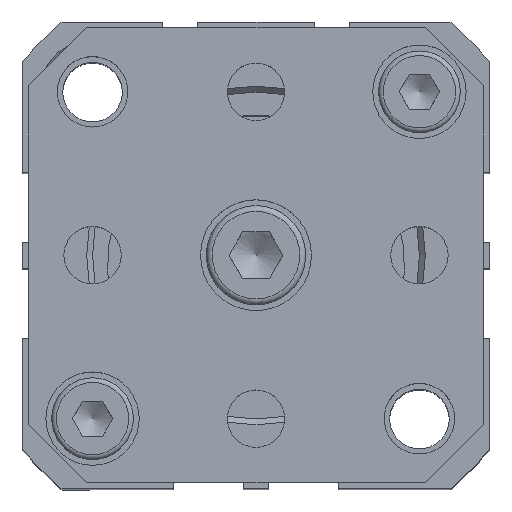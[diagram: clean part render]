
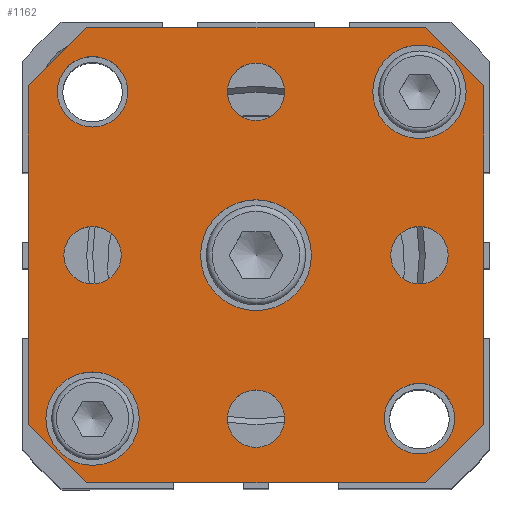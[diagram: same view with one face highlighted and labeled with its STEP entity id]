
A CAD part, top view. The second image highlights one B-rep face of the part: STEP entity #1162.
In plain terms, the highlighted planar face has unit normal (0, 0, 1).
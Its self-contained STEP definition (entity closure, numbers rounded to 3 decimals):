
#464=CARTESIAN_POINT('',(-12.524,-11.716,65.2));
#465=VERTEX_POINT('',#464);
#466=CARTESIAN_POINT('',(-16.524,-11.716,65.2));
#467=DIRECTION('',(0.0,0.0,-1.0));
#468=DIRECTION('',(1.0,0.0,0.0));
#469=AXIS2_PLACEMENT_3D('',#466,#467,#468);
#470=CIRCLE('',#469,4.0);
#471=EDGE_CURVE('',#465,#465,#470,.T.);
#566=CARTESIAN_POINT('',(15.476,16.284,65.2));
#567=VERTEX_POINT('',#566);
#568=CARTESIAN_POINT('',(11.476,16.284,65.2));
#569=DIRECTION('',(0.0,0.0,-1.0));
#570=DIRECTION('',(1.0,0.0,0.0));
#571=AXIS2_PLACEMENT_3D('',#568,#569,#570);
#572=CIRCLE('',#571,4.0);
#573=EDGE_CURVE('',#567,#567,#572,.T.);
#651=CARTESIAN_POINT('',(13.934,2.284,65.2));
#652=VERTEX_POINT('',#651);
#653=CARTESIAN_POINT('',(11.476,2.284,65.2));
#654=DIRECTION('',(0.0,0.0,-1.0));
#655=DIRECTION('',(1.0,0.0,0.0));
#656=AXIS2_PLACEMENT_3D('',#653,#654,#655);
#657=CIRCLE('',#656,2.459);
#658=EDGE_CURVE('',#652,#652,#657,.T.);
#692=CARTESIAN_POINT('',(-0.066,-11.716,65.2));
#693=VERTEX_POINT('',#692);
#694=CARTESIAN_POINT('',(-2.524,-11.716,65.2));
#695=DIRECTION('',(0.0,0.0,-1.0));
#696=DIRECTION('',(1.0,0.0,0.0));
#697=AXIS2_PLACEMENT_3D('',#694,#695,#696);
#698=CIRCLE('',#697,2.459);
#699=EDGE_CURVE('',#693,#693,#698,.T.);
#733=CARTESIAN_POINT('',(-14.066,2.284,65.2));
#734=VERTEX_POINT('',#733);
#735=CARTESIAN_POINT('',(-16.524,2.284,65.2));
#736=DIRECTION('',(0.0,0.0,-1.0));
#737=DIRECTION('',(1.0,0.0,0.0));
#738=AXIS2_PLACEMENT_3D('',#735,#736,#737);
#739=CIRCLE('',#738,2.459);
#740=EDGE_CURVE('',#734,#734,#739,.T.);
#774=CARTESIAN_POINT('',(-0.066,16.284,65.2));
#775=VERTEX_POINT('',#774);
#776=CARTESIAN_POINT('',(-2.524,16.284,65.2));
#777=DIRECTION('',(0.0,0.0,-1.0));
#778=DIRECTION('',(1.0,0.0,0.0));
#779=AXIS2_PLACEMENT_3D('',#776,#777,#778);
#780=CIRCLE('',#779,2.459);
#781=EDGE_CURVE('',#775,#775,#780,.T.);
#840=CARTESIAN_POINT('',(2.226,2.284,65.2));
#841=VERTEX_POINT('',#840);
#842=CARTESIAN_POINT('',(-2.524,2.284,65.2));
#843=DIRECTION('',(0.0,0.0,-1.0));
#844=DIRECTION('',(1.0,0.0,0.0));
#845=AXIS2_PLACEMENT_3D('',#842,#843,#844);
#846=CIRCLE('',#845,4.75);
#847=EDGE_CURVE('',#841,#841,#846,.T.);
#893=CARTESIAN_POINT('',(14.495,-11.716,65.2));
#894=VERTEX_POINT('',#893);
#895=CARTESIAN_POINT('',(11.476,-11.716,65.2));
#896=DIRECTION('',(0.0,0.0,-1.0));
#897=DIRECTION('',(-1.0,0.0,0.0));
#898=AXIS2_PLACEMENT_3D('',#895,#896,#897);
#899=CIRCLE('',#898,3.019);
#900=EDGE_CURVE('',#894,#894,#899,.T.);
#913=CARTESIAN_POINT('',(-13.505,16.284,65.2));
#914=VERTEX_POINT('',#913);
#915=CARTESIAN_POINT('',(-16.524,16.284,65.2));
#916=DIRECTION('',(0.0,0.0,-1.0));
#917=DIRECTION('',(-1.0,0.0,0.0));
#918=AXIS2_PLACEMENT_3D('',#915,#916,#917);
#919=CIRCLE('',#918,3.019);
#920=EDGE_CURVE('',#914,#914,#919,.T.);
#933=CARTESIAN_POINT('',(-17.024,21.784,65.2));
#934=VERTEX_POINT('',#933);
#935=CARTESIAN_POINT('',(11.976,21.784,65.2));
#936=VERTEX_POINT('',#935);
#937=CARTESIAN_POINT('',(-17.024,21.784,65.2));
#938=DIRECTION('',(1.0,0.0,0.0));
#939=VECTOR('',#938,29.);
#940=LINE('',#937,#939);
#941=EDGE_CURVE('',#934,#936,#940,.T.);
#964=CARTESIAN_POINT('',(16.976,16.784,65.2));
#965=VERTEX_POINT('',#964);
#966=CARTESIAN_POINT('',(11.976,21.784,65.2));
#967=DIRECTION('',(0.707,-0.707,0.0));
#968=VECTOR('',#967,7.071);
#969=LINE('',#966,#968);
#970=EDGE_CURVE('',#936,#965,#969,.T.);
#988=CARTESIAN_POINT('',(16.976,-12.216,65.2));
#989=VERTEX_POINT('',#988);
#990=CARTESIAN_POINT('',(16.976,16.784,65.2));
#991=DIRECTION('',(0.0,-1.0,0.0));
#992=VECTOR('',#991,29.);
#993=LINE('',#990,#992);
#994=EDGE_CURVE('',#965,#989,#993,.T.);
#1012=CARTESIAN_POINT('',(11.976,-17.216,65.2));
#1013=VERTEX_POINT('',#1012);
#1014=CARTESIAN_POINT('',(16.976,-12.216,65.2));
#1015=DIRECTION('',(-0.707,-0.707,0.0));
#1016=VECTOR('',#1015,7.071);
#1017=LINE('',#1014,#1016);
#1018=EDGE_CURVE('',#989,#1013,#1017,.T.);
#1036=CARTESIAN_POINT('',(-17.024,-17.216,65.2));
#1037=VERTEX_POINT('',#1036);
#1038=CARTESIAN_POINT('',(11.976,-17.216,65.2));
#1039=DIRECTION('',(-1.0,0.0,0.0));
#1040=VECTOR('',#1039,29.);
#1041=LINE('',#1038,#1040);
#1042=EDGE_CURVE('',#1013,#1037,#1041,.T.);
#1060=CARTESIAN_POINT('',(-22.024,-12.216,65.2));
#1061=VERTEX_POINT('',#1060);
#1062=CARTESIAN_POINT('',(-17.024,-17.216,65.2));
#1063=DIRECTION('',(-0.707,0.707,0.0));
#1064=VECTOR('',#1063,7.071);
#1065=LINE('',#1062,#1064);
#1066=EDGE_CURVE('',#1037,#1061,#1065,.T.);
#1084=CARTESIAN_POINT('',(-22.024,16.784,65.2));
#1085=VERTEX_POINT('',#1084);
#1086=CARTESIAN_POINT('',(-22.024,-12.216,65.2));
#1087=DIRECTION('',(0.0,1.0,0.0));
#1088=VECTOR('',#1087,29.);
#1089=LINE('',#1086,#1088);
#1090=EDGE_CURVE('',#1061,#1085,#1089,.T.);
#1108=CARTESIAN_POINT('',(-22.024,16.784,65.2));
#1109=DIRECTION('',(0.707,0.707,0.0));
#1110=VECTOR('',#1109,7.071);
#1111=LINE('',#1108,#1110);
#1112=EDGE_CURVE('',#1085,#934,#1111,.T.);
#1120=CARTESIAN_POINT('',(-2.524,2.284,65.2));
#1121=DIRECTION('',(0.0,0.0,1.0));
#1122=DIRECTION('',(1.0,0.0,0.0));
#1123=AXIS2_PLACEMENT_3D('',#1120,#1121,#1122);
#1124=PLANE('',#1123);
#1125=ORIENTED_EDGE('',*,*,#941,.F.);
#1126=ORIENTED_EDGE('',*,*,#1112,.F.);
#1127=ORIENTED_EDGE('',*,*,#1090,.F.);
#1128=ORIENTED_EDGE('',*,*,#1066,.F.);
#1129=ORIENTED_EDGE('',*,*,#1042,.F.);
#1130=ORIENTED_EDGE('',*,*,#1018,.F.);
#1131=ORIENTED_EDGE('',*,*,#994,.F.);
#1132=ORIENTED_EDGE('',*,*,#970,.F.);
#1133=EDGE_LOOP('',(#1125,#1126,#1127,#1128,#1129,#1130,#1131,#1132));
#1134=FACE_OUTER_BOUND('',#1133,.T.);
#1135=ORIENTED_EDGE('',*,*,#471,.T.);
#1136=EDGE_LOOP('',(#1135));
#1137=FACE_BOUND('',#1136,.T.);
#1138=ORIENTED_EDGE('',*,*,#573,.T.);
#1139=EDGE_LOOP('',(#1138));
#1140=FACE_BOUND('',#1139,.T.);
#1141=ORIENTED_EDGE('',*,*,#658,.T.);
#1142=EDGE_LOOP('',(#1141));
#1143=FACE_BOUND('',#1142,.T.);
#1144=ORIENTED_EDGE('',*,*,#699,.T.);
#1145=EDGE_LOOP('',(#1144));
#1146=FACE_BOUND('',#1145,.T.);
#1147=ORIENTED_EDGE('',*,*,#740,.T.);
#1148=EDGE_LOOP('',(#1147));
#1149=FACE_BOUND('',#1148,.T.);
#1150=ORIENTED_EDGE('',*,*,#781,.T.);
#1151=EDGE_LOOP('',(#1150));
#1152=FACE_BOUND('',#1151,.T.);
#1153=ORIENTED_EDGE('',*,*,#847,.T.);
#1154=EDGE_LOOP('',(#1153));
#1155=FACE_BOUND('',#1154,.T.);
#1156=ORIENTED_EDGE('',*,*,#900,.T.);
#1157=EDGE_LOOP('',(#1156));
#1158=FACE_BOUND('',#1157,.T.);
#1159=ORIENTED_EDGE('',*,*,#920,.T.);
#1160=EDGE_LOOP('',(#1159));
#1161=FACE_BOUND('',#1160,.T.);
#1162=ADVANCED_FACE('',(#1134,#1137,#1140,#1143,#1146,#1149,#1152,#1155,#1158,#1161),#1124,.T.);
